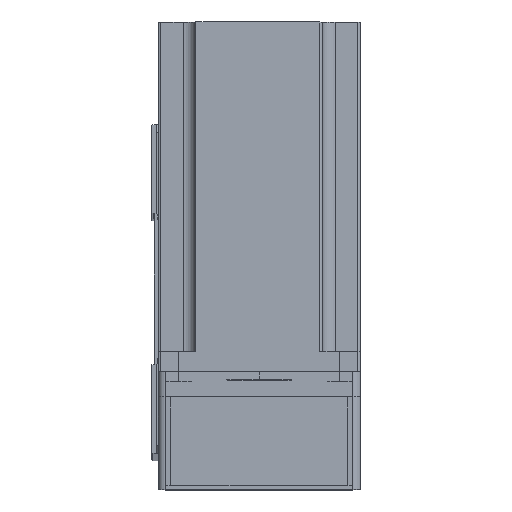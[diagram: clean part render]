
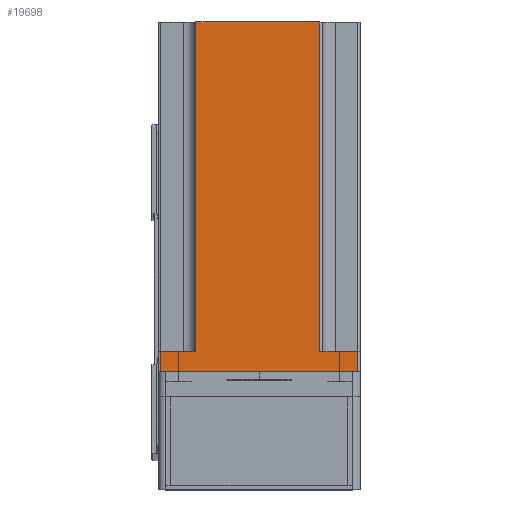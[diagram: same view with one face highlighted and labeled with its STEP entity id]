
A CAD part, top view. The second image highlights one B-rep face of the part: STEP entity #19698.
In plain terms, the highlighted planar face has unit normal (0, 0, 1) as drawn and (-1, 0, 0) by its records, which use the part's own axes.
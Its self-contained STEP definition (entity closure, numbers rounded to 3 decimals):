
#1262 = ORIENTED_EDGE ( 'NONE', *, *, #24936, .T. ) ;
#3717 = ORIENTED_EDGE ( 'NONE', *, *, #38236, .T. ) ;
#6401 = EDGE_CURVE ( 'NONE', #29467, #57021, #33033, .T. ) ;
#6500 = VECTOR ( 'NONE', #46568, 1000. ) ;
#7890 = LINE ( 'NONE', #47476, #6500 ) ;
#8498 = VECTOR ( 'NONE', #57167, 1000. ) ;
#8708 = ORIENTED_EDGE ( 'NONE', *, *, #26348, .F. ) ;
#9256 = CARTESIAN_POINT ( 'NONE',  ( -40., 39., 8. ) ) ;
#14091 = CARTESIAN_POINT ( 'NONE',  ( -40., -39., 0. ) ) ;
#14117 = ORIENTED_EDGE ( 'NONE', *, *, #28553, .T. ) ;
#15262 = LINE ( 'NONE', #36777, #37454 ) ;
#15935 = VECTOR ( 'NONE', #27617, 1000. ) ;
#16312 = ORIENTED_EDGE ( 'NONE', *, *, #28070, .F. ) ;
#18005 = CARTESIAN_POINT ( 'NONE',  ( -40., -24., 138.3 ) ) ;
#19383 = CARTESIAN_POINT ( 'NONE',  ( -40., -39., 8. ) ) ;
#19698 = ADVANCED_FACE ( 'NONE', ( #26161 ), #25019, .F. ) ;
#21584 = DIRECTION ( 'NONE',  ( 1., 0., 0. ) ) ;
#21798 = CARTESIAN_POINT ( 'NONE',  ( -40., -40., 138.3 ) ) ;
#21916 = DIRECTION ( 'NONE',  ( 0., 0., -1. ) ) ;
#23185 = CARTESIAN_POINT ( 'NONE',  ( -40., 25., 138.3 ) ) ;
#24567 = CARTESIAN_POINT ( 'NONE',  ( -40., 40., 8. ) ) ;
#24934 = AXIS2_PLACEMENT_3D ( 'NONE', #21798, #21584, #21916 ) ;
#24936 = EDGE_CURVE ( 'NONE', #41057, #52439, #15262, .T. ) ;
#25019 = PLANE ( 'NONE',  #24934 ) ;
#25112 = EDGE_CURVE ( 'NONE', #25114, #41057, #27718, .T. ) ;
#25114 = VERTEX_POINT ( 'NONE', #27039 ) ;
#25117 = CARTESIAN_POINT ( 'NONE',  ( -40., -24., 8. ) ) ;
#25122 = CARTESIAN_POINT ( 'NONE',  ( -40., 25., 8. ) ) ;
#25173 = DIRECTION ( 'NONE',  ( 0., 0., 1. ) ) ;
#25718 = ORIENTED_EDGE ( 'NONE', *, *, #6401, .F. ) ;
#26161 = FACE_OUTER_BOUND ( 'NONE', #48987, .T. ) ;
#26348 = EDGE_CURVE ( 'NONE', #29720, #52439, #43365, .T. ) ;
#27039 = CARTESIAN_POINT ( 'NONE',  ( -40., 39., 0. ) ) ;
#27617 = DIRECTION ( 'NONE',  ( 0., -1., 0. ) ) ;
#27718 = LINE ( 'NONE', #28385, #15935 ) ;
#28070 = EDGE_CURVE ( 'NONE', #57021, #56345, #7890, .T. ) ;
#28385 = CARTESIAN_POINT ( 'NONE',  ( -40., -40., 0. ) ) ;
#28553 = EDGE_CURVE ( 'NONE', #40656, #25114, #42384, .T. ) ;
#29467 = VERTEX_POINT ( 'NONE', #32978 ) ;
#29720 = VERTEX_POINT ( 'NONE', #25117 ) ;
#31414 = ORIENTED_EDGE ( 'NONE', *, *, #25112, .T. ) ;
#31635 = VECTOR ( 'NONE', #46983, 1000. ) ;
#32281 = VECTOR ( 'NONE', #55395, 1000. ) ;
#32978 = CARTESIAN_POINT ( 'NONE',  ( -40., 25., 8. ) ) ;
#33033 = LINE ( 'NONE', #25122, #43366 ) ;
#35239 = VECTOR ( 'NONE', #47528, 1000. ) ;
#35694 = CARTESIAN_POINT ( 'NONE',  ( -40., -24., 138.3 ) ) ;
#36777 = CARTESIAN_POINT ( 'NONE',  ( -40., -39., 138.3 ) ) ;
#37176 = DIRECTION ( 'NONE',  ( 0., 0., 1. ) ) ;
#37454 = VECTOR ( 'NONE', #37176, 1000. ) ;
#38236 = EDGE_CURVE ( 'NONE', #29720, #56345, #57215, .T. ) ;
#40656 = VERTEX_POINT ( 'NONE', #9256 ) ;
#41057 = VERTEX_POINT ( 'NONE', #14091 ) ;
#42384 = LINE ( 'NONE', #57233, #8498 ) ;
#43365 = LINE ( 'NONE', #47043, #31635 ) ;
#43366 = VECTOR ( 'NONE', #25173, 1000. ) ;
#46568 = DIRECTION ( 'NONE',  ( 0., -1., 0. ) ) ;
#46983 = DIRECTION ( 'NONE',  ( 0., -1., 0. ) ) ;
#47043 = CARTESIAN_POINT ( 'NONE',  ( -40., -40., 8. ) ) ;
#47476 = CARTESIAN_POINT ( 'NONE',  ( -40., -40., 138.3 ) ) ;
#47528 = DIRECTION ( 'NONE',  ( 0., 0., 1. ) ) ;
#48987 = EDGE_LOOP ( 'NONE', ( #8708, #3717, #16312, #25718, #54886, #14117, #31414, #1262 ) ) ;
#49249 = EDGE_CURVE ( 'NONE', #29467, #40656, #55669, .T. ) ;
#52439 = VERTEX_POINT ( 'NONE', #19383 ) ;
#54886 = ORIENTED_EDGE ( 'NONE', *, *, #49249, .T. ) ;
#55395 = DIRECTION ( 'NONE',  ( 0., 1., 0. ) ) ;
#55669 = LINE ( 'NONE', #24567, #32281 ) ;
#56345 = VERTEX_POINT ( 'NONE', #18005 ) ;
#57021 = VERTEX_POINT ( 'NONE', #23185 ) ;
#57167 = DIRECTION ( 'NONE',  ( 0., 0., -1. ) ) ;
#57215 = LINE ( 'NONE', #35694, #35239 ) ;
#57233 = CARTESIAN_POINT ( 'NONE',  ( -40., 39., 138.3 ) ) ;
